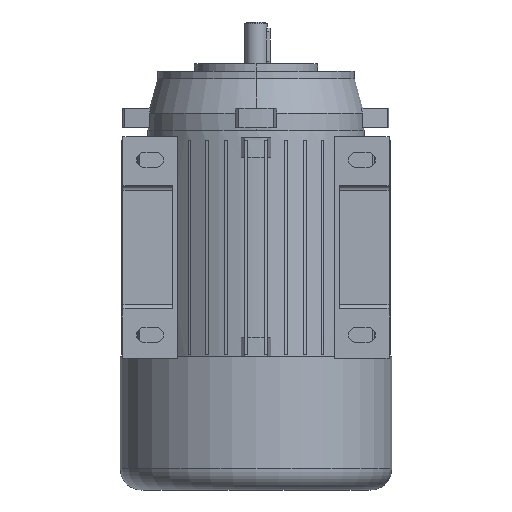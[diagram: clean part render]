
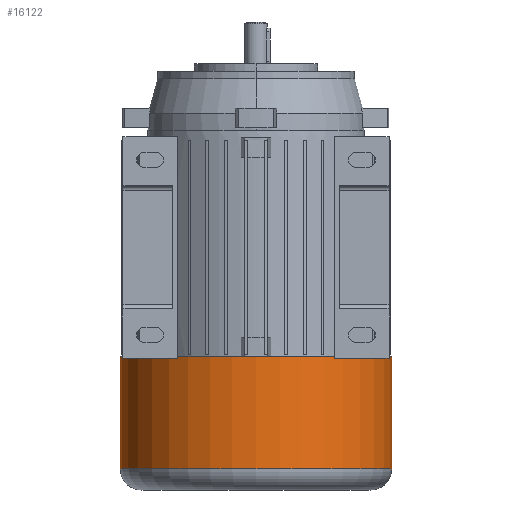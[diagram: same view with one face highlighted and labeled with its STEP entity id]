
A CAD part, front view. The second image highlights one B-rep face of the part: STEP entity #16122.
In plain terms, the highlighted cylindrical face has radius 55.1 mm (diameter 110.2 mm), a partial arc.
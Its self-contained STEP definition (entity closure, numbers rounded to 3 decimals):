
#150 = CIRCLE ( 'NONE', #294, 55.1 ) ;
#294 = AXIS2_PLACEMENT_3D ( 'NONE', #7928, #10754, #16064 ) ;
#728 = CARTESIAN_POINT ( 'NONE',  ( -55.1, 0., -44.5 ) ) ;
#2632 = LINE ( 'NONE', #4689, #16333 ) ;
#3073 = CARTESIAN_POINT ( 'NONE',  ( 55.1, 0., -44.5 ) ) ;
#3334 = VERTEX_POINT ( 'NONE', #10180 ) ;
#4297 = DIRECTION ( 'NONE',  ( 0., 0., 1. ) ) ;
#4373 = ORIENTED_EDGE ( 'NONE', *, *, #4815, .T. ) ;
#4655 = EDGE_CURVE ( 'NONE', #3334, #16682, #6848, .T. ) ;
#4689 = CARTESIAN_POINT ( 'NONE',  ( 55.1, 0., 0. ) ) ;
#4749 = DIRECTION ( 'NONE',  ( 0., 0., 1. ) ) ;
#4815 = EDGE_CURVE ( 'NONE', #3334, #6490, #16889, .T. ) ;
#5038 = EDGE_CURVE ( 'NONE', #16682, #7909, #150, .T. ) ;
#6483 = EDGE_CURVE ( 'NONE', #6490, #7909, #2632, .T. ) ;
#6490 = VERTEX_POINT ( 'NONE', #6605 ) ;
#6498 = DIRECTION ( 'NONE',  ( 0., 0., 1. ) ) ;
#6605 = CARTESIAN_POINT ( 'NONE',  ( 55.1, 0., -89.9 ) ) ;
#6848 = LINE ( 'NONE', #13340, #12844 ) ;
#7218 = CARTESIAN_POINT ( 'NONE',  ( 0., 0., -89.9 ) ) ;
#7909 = VERTEX_POINT ( 'NONE', #3073 ) ;
#7928 = CARTESIAN_POINT ( 'NONE',  ( 0., 0., -44.5 ) ) ;
#8258 = AXIS2_PLACEMENT_3D ( 'NONE', #7218, #4297, #15408 ) ;
#8481 = DIRECTION ( 'NONE',  ( 0., 0., 1. ) ) ;
#8527 = CARTESIAN_POINT ( 'NONE',  ( 0., 0., 0. ) ) ;
#9009 = EDGE_LOOP ( 'NONE', ( #15633, #4373, #13118, #17172 ) ) ;
#9359 = CYLINDRICAL_SURFACE ( 'NONE', #11983, 55.1 ) ;
#10180 = CARTESIAN_POINT ( 'NONE',  ( -55.1, 0., -89.9 ) ) ;
#10754 = DIRECTION ( 'NONE',  ( 0., 0., 1. ) ) ;
#11082 = FACE_OUTER_BOUND ( 'NONE', #9009, .T. ) ;
#11983 = AXIS2_PLACEMENT_3D ( 'NONE', #8527, #8481, #14055 ) ;
#12844 = VECTOR ( 'NONE', #6498, 1000. ) ;
#13118 = ORIENTED_EDGE ( 'NONE', *, *, #6483, .T. ) ;
#13340 = CARTESIAN_POINT ( 'NONE',  ( -55.1, 0., 0. ) ) ;
#14055 = DIRECTION ( 'NONE',  ( 1., 0., 0. ) ) ;
#15408 = DIRECTION ( 'NONE',  ( 1., 0., 0. ) ) ;
#15633 = ORIENTED_EDGE ( 'NONE', *, *, #4655, .F. ) ;
#16064 = DIRECTION ( 'NONE',  ( 1., 0., 0. ) ) ;
#16122 = ADVANCED_FACE ( 'NONE', ( #11082 ), #9359, .T. ) ;
#16333 = VECTOR ( 'NONE', #4749, 1000. ) ;
#16682 = VERTEX_POINT ( 'NONE', #728 ) ;
#16889 = CIRCLE ( 'NONE', #8258, 55.1 ) ;
#17172 = ORIENTED_EDGE ( 'NONE', *, *, #5038, .F. ) ;
